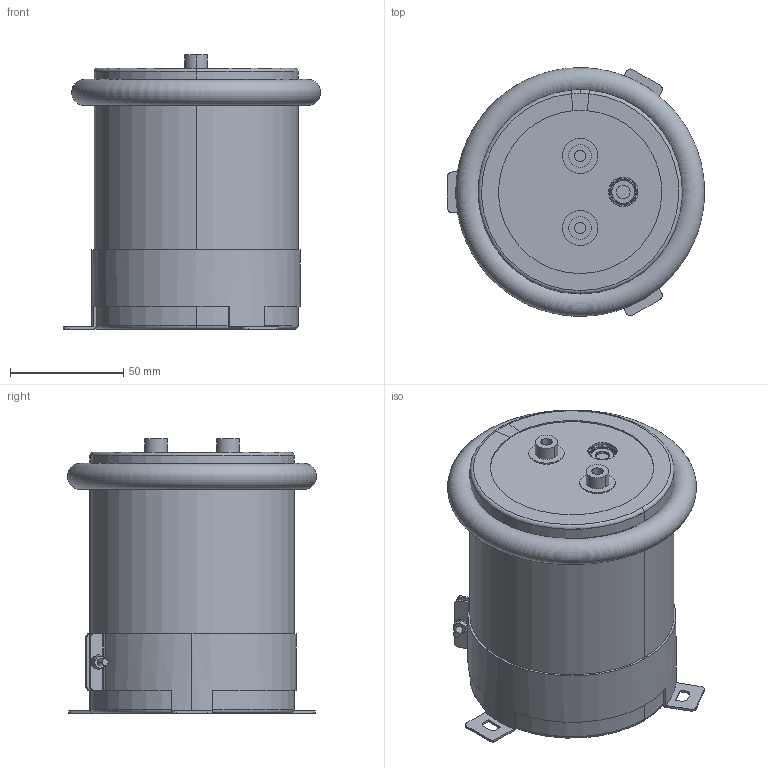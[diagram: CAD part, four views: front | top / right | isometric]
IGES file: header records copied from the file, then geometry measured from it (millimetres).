
Start section: 3D InterOp IGES (v. 2019 1.0.2), Spatial Corp. Copyright (c) 1999-2017.
Global section: file name: 90x115_Screw.igs; native system: Spatial Corp.; preprocessor: 3D InterOp ACIS/IGES; author: Noname; organization: Noname; date: 20220314.170437; units: millimetre
Bounding box: 113.35 x 109.69 x 121 mm (x, y, z)
Volume: 1076286 mm3; surface area: 277808.1 mm2
Topology: 9 solids, 9 shells, 352 faces, 953 edges, 591 vertices
Faces by surface type: plane 112, cylinder 110, torus 90, cone 38, sphere 2
